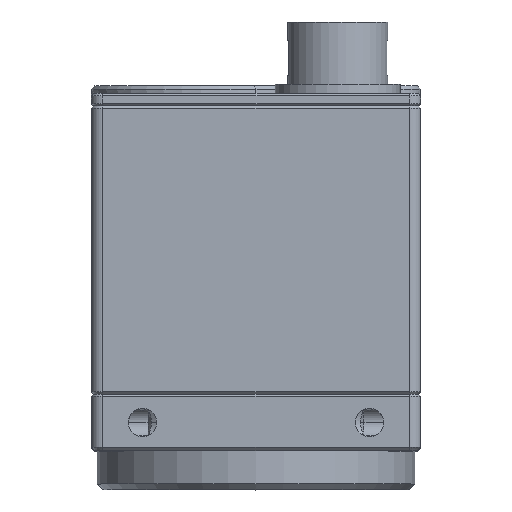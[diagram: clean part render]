
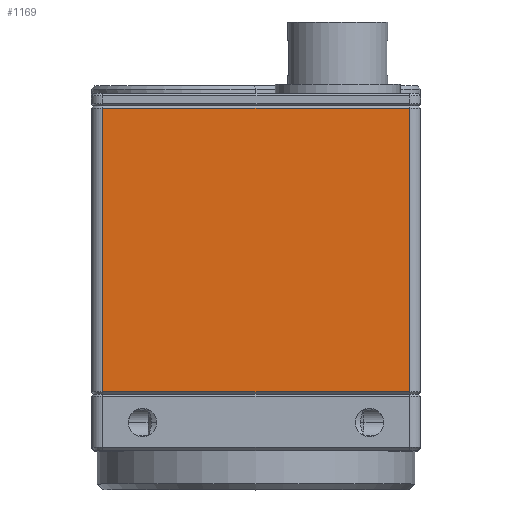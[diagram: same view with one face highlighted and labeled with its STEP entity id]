
A CAD part, top view. The second image highlights one B-rep face of the part: STEP entity #1169.
In plain terms, the highlighted planar face has unit normal (0, 0, 1).
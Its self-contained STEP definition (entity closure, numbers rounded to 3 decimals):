
#521 = DIRECTION ( 'NONE',  ( 0., 0., -1. ) ) ;
#1169 = ADVANCED_FACE ( 'NONE', ( #11374 ), #10658, .F. ) ;
#2364 = VECTOR ( 'NONE', #36706, 1000. ) ;
#3818 = DIRECTION ( 'NONE',  ( -1., 0., 0. ) ) ;
#4502 = EDGE_CURVE ( 'NONE', #18557, #14564, #22873, .T. ) ;
#4849 = CARTESIAN_POINT ( 'NONE',  ( -13.5, -4.8, 14.5 ) ) ;
#6941 = VERTEX_POINT ( 'NONE', #32213 ) ;
#10658 = PLANE ( 'NONE',  #40756 ) ;
#11280 = EDGE_CURVE ( 'NONE', #6941, #42353, #33145, .T. ) ;
#11374 = FACE_OUTER_BOUND ( 'NONE', #24211, .T. ) ;
#14564 = VERTEX_POINT ( 'NONE', #17132 ) ;
#17132 = CARTESIAN_POINT ( 'NONE',  ( 13.5, 20.2, 14.5 ) ) ;
#18557 = VERTEX_POINT ( 'NONE', #36535 ) ;
#22873 = LINE ( 'NONE', #23563, #27611 ) ;
#23563 = CARTESIAN_POINT ( 'NONE',  ( 13.5, 20.4, 14.5 ) ) ;
#24081 = LINE ( 'NONE', #38255, #38232 ) ;
#24211 = EDGE_LOOP ( 'NONE', ( #36331, #28146, #38603, #35646 ) ) ;
#27150 = EDGE_CURVE ( 'NONE', #14564, #6941, #35574, .T. ) ;
#27596 = DIRECTION ( 'NONE',  ( 1., 0., 0. ) ) ;
#27611 = VECTOR ( 'NONE', #44821, 1000. ) ;
#28146 = ORIENTED_EDGE ( 'NONE', *, *, #41784, .T. ) ;
#32213 = CARTESIAN_POINT ( 'NONE',  ( -13.5, 20.2, 14.5 ) ) ;
#32238 = CARTESIAN_POINT ( 'NONE',  ( -13.5, 20.2, 14.5 ) ) ;
#33145 = LINE ( 'NONE', #36934, #2364 ) ;
#35574 = LINE ( 'NONE', #32238, #44212 ) ;
#35646 = ORIENTED_EDGE ( 'NONE', *, *, #27150, .T. ) ;
#35933 = CARTESIAN_POINT ( 'NONE',  ( -14.5, 20.4, 14.5 ) ) ;
#36331 = ORIENTED_EDGE ( 'NONE', *, *, #11280, .T. ) ;
#36535 = CARTESIAN_POINT ( 'NONE',  ( 13.5, -4.8, 14.5 ) ) ;
#36706 = DIRECTION ( 'NONE',  ( 0., -1., 0. ) ) ;
#36934 = CARTESIAN_POINT ( 'NONE',  ( -13.5, 20.4, 14.5 ) ) ;
#38232 = VECTOR ( 'NONE', #27596, 1000. ) ;
#38255 = CARTESIAN_POINT ( 'NONE',  ( -14.5, -4.8, 14.5 ) ) ;
#38603 = ORIENTED_EDGE ( 'NONE', *, *, #4502, .T. ) ;
#39791 = DIRECTION ( 'NONE',  ( -1., 0., 0. ) ) ;
#40756 = AXIS2_PLACEMENT_3D ( 'NONE', #35933, #521, #3818 ) ;
#41784 = EDGE_CURVE ( 'NONE', #42353, #18557, #24081, .T. ) ;
#42353 = VERTEX_POINT ( 'NONE', #4849 ) ;
#44212 = VECTOR ( 'NONE', #39791, 1000. ) ;
#44821 = DIRECTION ( 'NONE',  ( 0., 1., 0. ) ) ;
